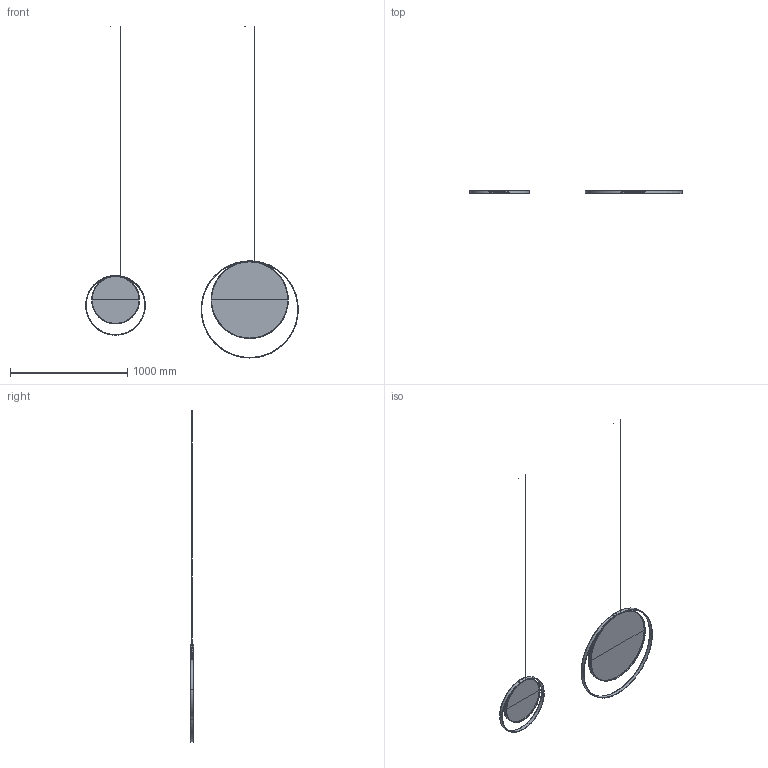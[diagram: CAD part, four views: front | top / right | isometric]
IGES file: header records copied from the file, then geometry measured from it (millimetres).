
Global section: file name: Z:\02.     PROJECTS FOR EDITORS\GREEN MOOD     ( BE )\2017_01_01    GREENMOOD General\12. FOR ARCHITECT_3D MODELS + PLANS\RING & TAIL\RING_FOR ARCHITECT.igs; native system: Rhinoceros ( May 22 2017 ); preprocessor: Trout Lake IGES 012 May 22 2017; date: 190617.142639; units: millimetre
Bounding box: 1812 x 30 x 2831.07 mm (x, y, z)
Surface area: 1496926.4 mm2 (no closed solid volume)
Topology: 0 solids, 0 shells, 52 faces, 284 edges, 276 vertices
Faces by surface type: bspline 52
